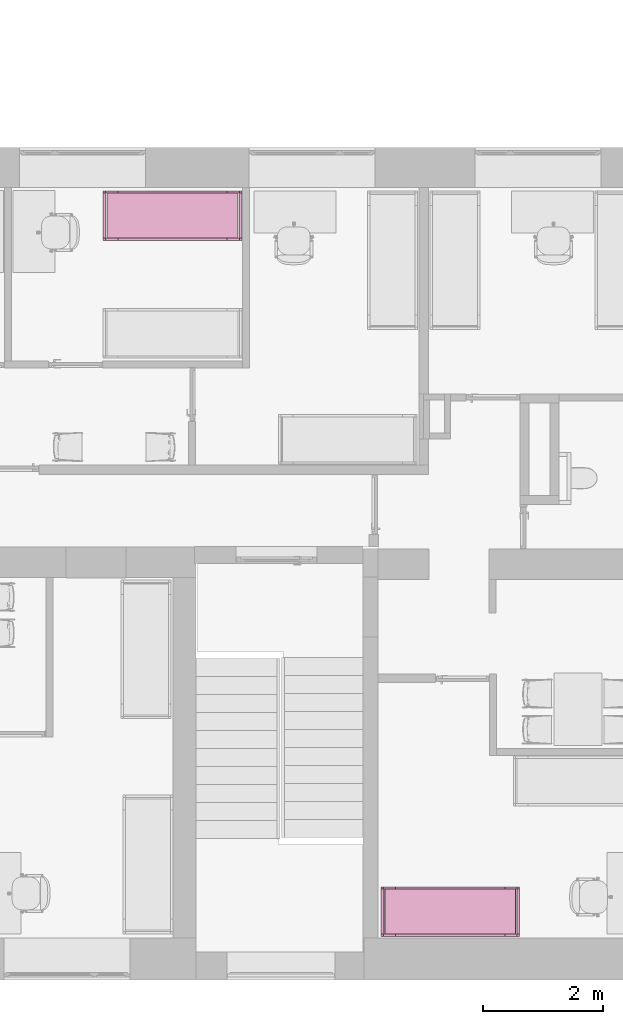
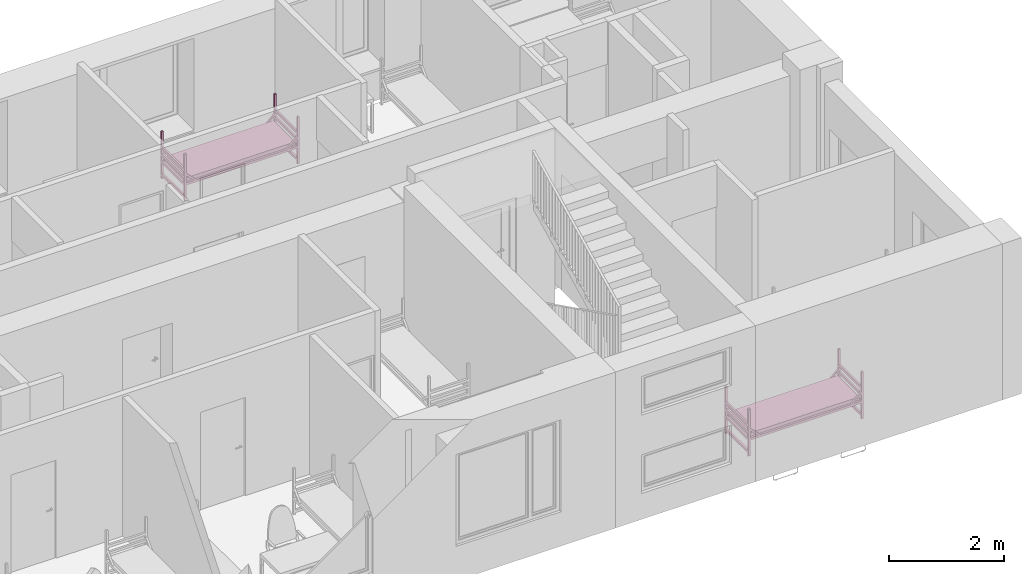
# One storey, part 42 of 48: 2 furnishings.
"""IFC2X3 building model written with IfcOpenShell, lengths in millimetres."""

from ifc_helpers import new_model, entity, si_unit, converted_unit, derived_unit, direction, frame, frame_2d, origin, place, context, subcontext, project, spatial, polyline, circle_curve, parameter, trimmed, segment, composite_curve, rectangle, outline, extrude, source, transform, mapped, material, type_object, type_shapes, element, save


model = new_model("IFC2X3")

# Units and contexts
model_context = context("Model", 3, precision=0.01, world=origin(), true_north=direction((6.12303176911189e-17, 1.0)))
body_context = subcontext(model_context, "Body", "Model", "MODEL_VIEW")
ifc_project = project(units=[si_unit("LENGTHUNIT", "METRE", prefix="MILLI"), si_unit("AREAUNIT", "SQUARE_METRE"), si_unit("VOLUMEUNIT", "CUBIC_METRE"), converted_unit("PLANEANGLEUNIT", "DEGREE", entity("IfcRatioMeasure", 0.0174532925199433), si_unit("PLANEANGLEUNIT", "RADIAN"), dimensions=[0, 0, 0, 0, 0, 0, 0]), si_unit("MASSUNIT", "GRAM", prefix="KILO"), derived_unit("MASSDENSITYUNIT", [(si_unit("MASSUNIT", "GRAM", prefix="KILO"), 1), (si_unit("LENGTHUNIT", "METRE"), -3)]), si_unit("TIMEUNIT", "SECOND"), si_unit("FREQUENCYUNIT", "HERTZ"), si_unit("THERMODYNAMICTEMPERATUREUNIT", "DEGREE_CELSIUS"), derived_unit("THERMALTRANSMITTANCEUNIT", [(si_unit("MASSUNIT", "GRAM", prefix="KILO"), 1), (si_unit("THERMODYNAMICTEMPERATUREUNIT", "KELVIN"), -1), (si_unit("TIMEUNIT", "SECOND"), -3)]), derived_unit("VOLUMETRICFLOWRATEUNIT", [(si_unit("LENGTHUNIT", "METRE"), 3), (si_unit("TIMEUNIT", "SECOND"), -1)]), si_unit("ELECTRICCURRENTUNIT", "AMPERE"), si_unit("ELECTRICVOLTAGEUNIT", "VOLT"), si_unit("POWERUNIT", "WATT"), si_unit("FORCEUNIT", "NEWTON", prefix="KILO"), si_unit("ILLUMINANCEUNIT", "LUX"), si_unit("LUMINOUSFLUXUNIT", "LUMEN"), si_unit("LUMINOUSINTENSITYUNIT", "CANDELA"), derived_unit("USERDEFINED", [(si_unit("MASSUNIT", "GRAM", prefix="KILO"), -1), (si_unit("LENGTHUNIT", "METRE"), -2), (si_unit("TIMEUNIT", "SECOND"), 3), (si_unit("LUMINOUSFLUXUNIT", "LUMEN"), 1)]), derived_unit("LINEARVELOCITYUNIT", [(si_unit("LENGTHUNIT", "METRE"), 1), (si_unit("TIMEUNIT", "SECOND"), -1)]), si_unit("PRESSUREUNIT", "PASCAL"), derived_unit("USERDEFINED", [(si_unit("LENGTHUNIT", "METRE"), -2), (si_unit("MASSUNIT", "GRAM", prefix="KILO"), 1), (si_unit("TIMEUNIT", "SECOND"), -2)]), derived_unit("LINEARFORCEUNIT", [(si_unit("MASSUNIT", "GRAM", prefix="KILO"), 1), (si_unit("LENGTHUNIT", "METRE"), 1), (si_unit("TIMEUNIT", "SECOND"), -2), (si_unit("LENGTHUNIT", "METRE"), -1)]), derived_unit("PLANARFORCEUNIT", [(si_unit("MASSUNIT", "GRAM", prefix="KILO"), 1), (si_unit("LENGTHUNIT", "METRE"), 1), (si_unit("TIMEUNIT", "SECOND"), -2), (si_unit("LENGTHUNIT", "METRE"), -2)])], contexts=[model_context])

# Site, building, storey, space
site_placement = place(None, origin())
site = spatial("IfcSite", under=ifc_project, at=site_placement, Name="Default", CompositionType="ELEMENT")
building_placement = place(site_placement, origin())
building = spatial("IfcBuilding", under=site, at=building_placement, Name="SMA ARH", CompositionType="ELEMENT")
storey_placement = place(building_placement, frame((0.0, 0.0, 6600.0)))
storey = spatial("IfcBuildingStorey", under=building, at=storey_placement, Name="3 Korrus", CompositionType="ELEMENT", Elevation=6599.99999999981)
space_1_placement = place(storey_placement, origin())
space_1 = spatial("IfcSpace", under=storey, at=space_1_placement, Name="3-30", CompositionType="ELEMENT", InteriorOrExteriorSpace="INTERNAL")

# Furnishing
ifc_material = material(Name="Madrats")
furniture_type = type_object("IfcFurnitureType", Name="Kasarmu voodi ühekordne 2308x830:Kasarmu voodi ühekordne 2308x830", material=ifc_material)
shared_shape = source(origin(), body_context, "Body", "SweptSolid", [
    extrude(rectangle(XDim=39.9999999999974, YDim=750.000000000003, at=frame_2d((-1.35003119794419e-13, -2.8421709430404e-14), x_axis=(1.0, 0.0))), frame((1.68638457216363, -1226.7969571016, 55.0), z_axis=(0.0, 0.0, 1.0), x_axis=(0.0, -1.0, 0.0)), (0.0, 0.0, 1.0), 49.9999999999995),
    extrude(rectangle(XDim=39.9999999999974, YDim=750.000000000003, at=frame_2d((-1.35003119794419e-13, -2.8421709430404e-14), x_axis=(1.0, 0.0))), frame((1.68638457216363, -1226.7969571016, 325.0), z_axis=(0.0, 0.0, 1.0), x_axis=(0.0, -1.0, 0.0)), (0.0, 0.0, 1.0), 49.9999999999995),
    extrude(rectangle(XDim=39.9999999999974, YDim=750.000000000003, at=frame_2d((-1.35003119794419e-13, -2.8421709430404e-14), x_axis=(1.0, 0.0))), frame((1.68638457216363, -1226.7969571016, 475.0), z_axis=(0.0, 0.0, 1.0), x_axis=(0.0, -1.0, 0.0)), (0.0, 0.0, 1.0), 49.9999999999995),
    extrude(rectangle(XDim=39.9999999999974, YDim=750.000000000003, at=frame_2d((-1.35003119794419e-13, -2.8421709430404e-14), x_axis=(1.0, 0.0))), frame((1.68638457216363, -1226.7969571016, 625.0), z_axis=(0.0, 0.0, 1.0), x_axis=(0.0, -1.0, 0.0)), (0.0, 0.0, 1.0), 50.0000000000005),
    extrude(rectangle(XDim=39.9999999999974, YDim=750.000000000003, at=frame_2d((1.35003119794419e-13, -2.8421709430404e-14), x_axis=(1.0, 0.0))), frame((1.68638457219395, 1041.2030428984, 55.0), z_axis=(0.0, 0.0, 1.0), x_axis=(0.0, -1.0, 0.0)), (0.0, 0.0, 1.0), 50.0000000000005),
    extrude(rectangle(XDim=39.9999999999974, YDim=750.000000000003, at=frame_2d((1.35003119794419e-13, -2.8421709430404e-14), x_axis=(1.0, 0.0))), frame((1.68638457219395, 1041.2030428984, 325.0), z_axis=(0.0, 0.0, 1.0), x_axis=(0.0, -1.0, 0.0)), (0.0, 0.0, 1.0), 50.0000000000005),
    extrude(rectangle(XDim=39.9999999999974, YDim=750.000000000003, at=frame_2d((1.35003119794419e-13, -2.8421709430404e-14), x_axis=(1.0, 0.0))), frame((1.68638457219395, 1041.2030428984, 475.0), z_axis=(0.0, 0.0, 1.0), x_axis=(0.0, -1.0, 0.0)), (0.0, 0.0, 1.0), 50.0000000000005),
    extrude(rectangle(XDim=39.9999999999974, YDim=750.000000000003, at=frame_2d((1.35003119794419e-13, -2.8421709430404e-14), x_axis=(1.0, 0.0))), frame((1.68638457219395, 1041.2030428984, 625.0), z_axis=(0.0, 0.0, 1.0), x_axis=(0.0, -1.0, 0.0)), (0.0, 0.0, 1.0), 49.9999999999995),
    extrude(outline(composite_curve([segment(trimmed(circle_curve(frame_2d((1085.0, -40.0), x_axis=(1.0, 0.0)), 10.0), [parameter(270.0)], [parameter(0.0)], True, "PARAMETER"), True, "CONTINUOUS"), segment(polyline([(1095.0, -40.0), (1095.0, 40.0)]), True, "CONTINUOUS"), segment(trimmed(circle_curve(frame_2d((1085.0, 40.0), x_axis=(1.0, 0.0)), 10.0), [parameter(0.0)], [parameter(90.0000000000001)], True, "PARAMETER"), True, "CONTINUOUS"), segment(polyline([(1085.0, 50.0), (-1085.0, 50.0)]), True, "CONTINUOUS"), segment(trimmed(circle_curve(frame_2d((-1085.0, 40.0), x_axis=(1.0, 0.0)), 10.0), [parameter(90.0000000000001)], [parameter(180.0)], True, "PARAMETER"), True, "CONTINUOUS"), segment(polyline([(-1095.0, 40.0), (-1095.0, -40.0)]), True, "CONTINUOUS"), segment(trimmed(circle_curve(frame_2d((-1085.0, -40.0), x_axis=(1.0, 0.0)), 10.0), [parameter(180.0)], [parameter(270.0)], True, "PARAMETER"), True, "CONTINUOUS"), segment(polyline([(-1085.0, -50.0), (1085.0, -50.0)]), True, "CONTINUOUS")], self_intersect=False)), frame((-373.313615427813, -92.7969571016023, 405.0), z_axis=(1.0, 0.0, 0.0), x_axis=(0.0, -1.0, 0.0)), (0.0, 0.0, 1.0), 750.000000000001),
    extrude(outline(polyline([(-1114.0, -100.0), (1114.0, -100.0), (1114.0, -50.0), (961.59199141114, -50.0), (1114.0, 100.0), (1114.0, 150.0), (910.789321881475, -50.0), (-910.789321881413, -50.0), (-1114.0, 150.0), (-1114.0, 100.0), (-961.591991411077, -50.0), (-1114.0, -50.0), (-1114.0, -100.0)])), frame((-413.313615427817, -92.7969571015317, 430.0), z_axis=(1.0, 0.0, 0.0), x_axis=(0.0, 1.0, 0.0)), (0.0, 0.0, 1.0), 39.9999999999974),
    extrude(outline(polyline([(-1114.0, -100.0), (1114.0, -100.0), (1114.0, -50.0), (961.591991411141, -50.0), (1114.0, 100.0), (1114.0, 150.0), (910.789321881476, -50.0), (-910.789321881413, -50.0), (-1114.0, 150.0), (-1114.0, 100.0), (-961.591991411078, -50.0), (-1114.0, -50.0), (-1114.0, -100.0)])), frame((376.686384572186, -92.796957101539, 430.0), z_axis=(1.0, 0.0, 0.0), x_axis=(0.0, 1.0, 0.0)), (0.0, 0.0, 1.0), 39.9999999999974),
    extrude(rectangle(XDim=39.9999999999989, YDim=39.9999999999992, at=frame_2d((-6.75015598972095e-14, 0.0), x_axis=(1.0, 0.0))), frame((396.686384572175, -1226.79695710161, 0.0), z_axis=(0.0, 0.0, 1.0), x_axis=(0.0, 1.0, 0.0)), (0.0, 0.0, 1.0), 995.0),
    extrude(rectangle(XDim=39.9999999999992, YDim=39.9999999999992, at=frame_2d((-1.35003119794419e-13, 0.0), x_axis=(1.0, 0.0))), frame((396.686384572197, 1041.20304289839, 0.0), z_axis=(0.0, 0.0, 1.0), x_axis=(0.0, 1.0, 0.0)), (0.0, 0.0, 1.0), 995.0),
    extrude(rectangle(XDim=40.0000000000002, YDim=39.9999999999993, at=frame_2d((-1.35003119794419e-13, 0.0), x_axis=(1.0, 0.0))), frame((-393.313615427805, 1041.2030428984, 0.0), z_axis=(0.0, 0.0, 1.0), x_axis=(0.0, 1.0, 0.0)), (0.0, 0.0, 1.0), 995.0),
    extrude(rectangle(XDim=39.9999999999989, YDim=39.9999999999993, at=frame_2d((-6.75015598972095e-14, 0.0), x_axis=(1.0, 0.0))), frame((-393.313615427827, -1226.7969571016, 0.0), z_axis=(0.0, 0.0, 1.0), x_axis=(0.0, 1.0, 0.0)), (0.0, 0.0, 1.0), 995.0),
])
type_shapes(furniture_type, [shared_shape])
furnishing_1_placement = place(space_1_placement, frame((30348.2030428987, 12030.0, 0.0), z_axis=(0.0, 0.0, 1.0), x_axis=(0.0, 1.0, 0.0)))
element("IfcFurnishingElement", 1, at=furnishing_1_placement, inside=space_1, type_object=furniture_type, material=ifc_material, Name="Kasarmu voodi ühekordne 2308x830:Kasarmu voodi ühekordne 2308x830", ObjectType="Kasarmu voodi ühekordne 2308x830:Kasarmu voodi ühekordne 2308x830", context=body_context, shape_type="MappedRepresentation", body=[
    mapped(shared_shape, transform((0.0, 0.0, 0.0), scale=1.0)),
])

# Space
space_2_placement = place(storey_placement, origin())
space_2 = spatial("IfcSpace", under=storey, at=space_2_placement, Name="3-1", CompositionType="ELEMENT", InteriorOrExteriorSpace="INTERNAL")

# Furnishing
furnishing_2_placement = place(space_2_placement, frame((35159.0, 440.0, 0.0), z_axis=(0.0, 0.0, 1.0), x_axis=(0.0, -1.0, 0.0)))
element("IfcFurnishingElement", 2, at=furnishing_2_placement, inside=space_2, type_object=furniture_type, material=ifc_material, Name="Kasarmu voodi ühekordne 2308x830:Kasarmu voodi ühekordne 2308x830", ObjectType="Kasarmu voodi ühekordne 2308x830:Kasarmu voodi ühekordne 2308x830", context=body_context, shape_type="MappedRepresentation", body=[
    mapped(shared_shape, transform((0.0, 0.0, 0.0), scale=1.0)),
])

save(model, "model.ifc")
